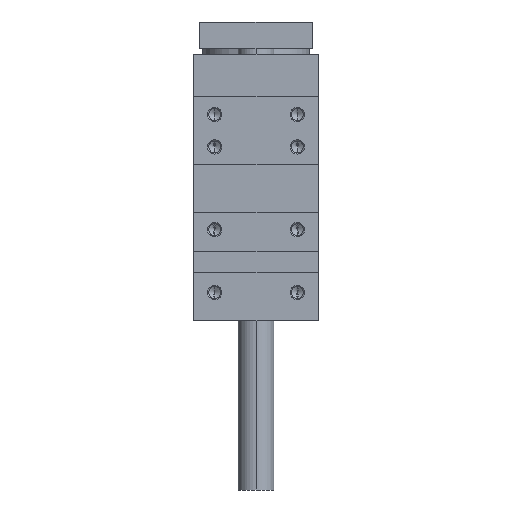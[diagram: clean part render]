
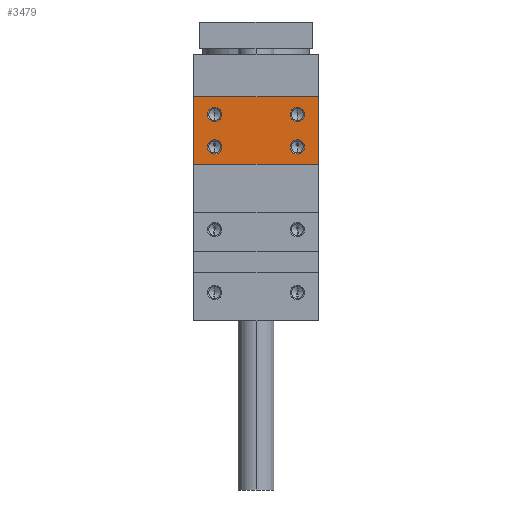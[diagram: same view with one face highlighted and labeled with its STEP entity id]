
A CAD part, left-side view. The second image highlights one B-rep face of the part: STEP entity #3479.
In plain terms, the highlighted planar face has unit normal (-1, 0, 0).
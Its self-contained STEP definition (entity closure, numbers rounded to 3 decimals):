
#53 = VERTEX_POINT ( 'NONE', #7625 ) ;
#315 = DIRECTION ( 'NONE',  ( 0., 0., -1. ) ) ;
#426 = EDGE_CURVE ( 'NONE', #6781, #7878, #5089, .T. ) ;
#442 = FACE_BOUND ( 'NONE', #6605, .T. ) ;
#595 = CARTESIAN_POINT ( 'NONE',  ( -68.5, -23.25, 18.8 ) ) ;
#725 = CIRCLE ( 'NONE', #5806, 4. ) ;
#773 = DIRECTION ( 'NONE',  ( 1., 0., 0. ) ) ;
#786 = CARTESIAN_POINT ( 'NONE',  ( -68.5, -23.25, 18.8 ) ) ;
#807 = ORIENTED_EDGE ( 'NONE', *, *, #2582, .T. ) ;
#882 = VERTEX_POINT ( 'NONE', #6215 ) ;
#1076 = CIRCLE ( 'NONE', #4927, 4. ) ;
#1111 = FACE_BOUND ( 'NONE', #7629, .T. ) ;
#1232 = EDGE_CURVE ( 'NONE', #7058, #6681, #1076, .T. ) ;
#1277 = ORIENTED_EDGE ( 'NONE', *, *, #5591, .T. ) ;
#1401 = CARTESIAN_POINT ( 'NONE',  ( -68.5, 23.25, 41. ) ) ;
#1419 = EDGE_CURVE ( 'NONE', #7375, #6781, #8122, .T. ) ;
#1497 = CARTESIAN_POINT ( 'NONE',  ( -68.5, 35., 9. ) ) ;
#1501 = DIRECTION ( 'NONE',  ( 0., -1., 0. ) ) ;
#1523 = DIRECTION ( 'NONE',  ( 1., 0., 0. ) ) ;
#1540 = ORIENTED_EDGE ( 'NONE', *, *, #1232, .T. ) ;
#1803 = ORIENTED_EDGE ( 'NONE', *, *, #1419, .T. ) ;
#1913 = ORIENTED_EDGE ( 'NONE', *, *, #10484, .T. ) ;
#2196 = CIRCLE ( 'NONE', #4649, 4. ) ;
#2381 = CARTESIAN_POINT ( 'NONE',  ( -68.5, -23.25, 41. ) ) ;
#2565 = AXIS2_PLACEMENT_3D ( 'NONE', #2746, #3786, #9667 ) ;
#2568 = ORIENTED_EDGE ( 'NONE', *, *, #6427, .T. ) ;
#2574 = ORIENTED_EDGE ( 'NONE', *, *, #8209, .T. ) ;
#2582 = EDGE_CURVE ( 'NONE', #6681, #7058, #5985, .T. ) ;
#2640 = DIRECTION ( 'NONE',  ( 0., 0., -1. ) ) ;
#2721 = CARTESIAN_POINT ( 'NONE',  ( -68.5, -35., -79. ) ) ;
#2746 = CARTESIAN_POINT ( 'NONE',  ( -68.5, 35., -79. ) ) ;
#2835 = CARTESIAN_POINT ( 'NONE',  ( -68.5, 23.25, 18.8 ) ) ;
#3052 = CARTESIAN_POINT ( 'NONE',  ( -68.5, 23.25, 22.8 ) ) ;
#3291 = EDGE_CURVE ( 'NONE', #4011, #7878, #5671, .T. ) ;
#3350 = ORIENTED_EDGE ( 'NONE', *, *, #3291, .F. ) ;
#3461 = CARTESIAN_POINT ( 'NONE',  ( -68.5, 23.25, 37. ) ) ;
#3479 = ADVANCED_FACE ( 'NONE', ( #8732, #3738, #442, #5280, #1111 ), #8677, .F. ) ;
#3501 = DIRECTION ( 'NONE',  ( 1., 0., 0. ) ) ;
#3738 = FACE_BOUND ( 'NONE', #3927, .T. ) ;
#3786 = DIRECTION ( 'NONE',  ( 1., 0., 0. ) ) ;
#3864 = VECTOR ( 'NONE', #7298, 1000. ) ;
#3916 = VERTEX_POINT ( 'NONE', #4498 ) ;
#3927 = EDGE_LOOP ( 'NONE', ( #8090, #2574 ) ) ;
#3934 = DIRECTION ( 'NONE',  ( 0., 0., -1. ) ) ;
#4011 = VERTEX_POINT ( 'NONE', #8222 ) ;
#4115 = DIRECTION ( 'NONE',  ( 0., 0., -1. ) ) ;
#4303 = CARTESIAN_POINT ( 'NONE',  ( -68.5, 23.25, 18.8 ) ) ;
#4468 = CIRCLE ( 'NONE', #10410, 4. ) ;
#4498 = CARTESIAN_POINT ( 'NONE',  ( -68.5, -23.25, 22.8 ) ) ;
#4649 = AXIS2_PLACEMENT_3D ( 'NONE', #9280, #773, #5111 ) ;
#4927 = AXIS2_PLACEMENT_3D ( 'NONE', #3461, #6816, #2640 ) ;
#4943 = AXIS2_PLACEMENT_3D ( 'NONE', #6338, #7726, #5457 ) ;
#4951 = CARTESIAN_POINT ( 'NONE',  ( -68.5, 70., 9. ) ) ;
#5089 = LINE ( 'NONE', #2721, #10692 ) ;
#5093 = CIRCLE ( 'NONE', #6153, 4. ) ;
#5111 = DIRECTION ( 'NONE',  ( 0., 0., -1. ) ) ;
#5280 = FACE_BOUND ( 'NONE', #5333, .T. ) ;
#5333 = EDGE_LOOP ( 'NONE', ( #1540, #807 ) ) ;
#5414 = LINE ( 'NONE', #8769, #8024 ) ;
#5457 = DIRECTION ( 'NONE',  ( 0., 0., -1. ) ) ;
#5537 = VERTEX_POINT ( 'NONE', #2381 ) ;
#5591 = EDGE_CURVE ( 'NONE', #3916, #882, #4468, .T. ) ;
#5671 = LINE ( 'NONE', #9020, #10628 ) ;
#5729 = DIRECTION ( 'NONE',  ( 0., 0., -1. ) ) ;
#5741 = CARTESIAN_POINT ( 'NONE',  ( -68.5, 23.25, 33. ) ) ;
#5806 = AXIS2_PLACEMENT_3D ( 'NONE', #4303, #1523, #9402 ) ;
#5818 = CARTESIAN_POINT ( 'NONE',  ( -68.5, -35., 47. ) ) ;
#5850 = CIRCLE ( 'NONE', #10228, 4. ) ;
#5985 = CIRCLE ( 'NONE', #4943, 4. ) ;
#6153 = AXIS2_PLACEMENT_3D ( 'NONE', #2835, #6186, #315 ) ;
#6186 = DIRECTION ( 'NONE',  ( 1., 0., 0. ) ) ;
#6215 = CARTESIAN_POINT ( 'NONE',  ( -68.5, -23.25, 14.8 ) ) ;
#6338 = CARTESIAN_POINT ( 'NONE',  ( -68.5, 23.25, 37. ) ) ;
#6427 = EDGE_CURVE ( 'NONE', #5537, #53, #2196, .T. ) ;
#6605 = EDGE_LOOP ( 'NONE', ( #1277, #1913 ) ) ;
#6681 = VERTEX_POINT ( 'NONE', #5741 ) ;
#6781 = VERTEX_POINT ( 'NONE', #9204 ) ;
#6816 = DIRECTION ( 'NONE',  ( 1., 0., 0. ) ) ;
#7058 = VERTEX_POINT ( 'NONE', #1401 ) ;
#7298 = DIRECTION ( 'NONE',  ( 0., -1., 0. ) ) ;
#7375 = VERTEX_POINT ( 'NONE', #1497 ) ;
#7499 = DIRECTION ( 'NONE',  ( 0., 0., 1. ) ) ;
#7625 = CARTESIAN_POINT ( 'NONE',  ( -68.5, -23.25, 33. ) ) ;
#7629 = EDGE_LOOP ( 'NONE', ( #2568, #8804 ) ) ;
#7726 = DIRECTION ( 'NONE',  ( 1., 0., 0. ) ) ;
#7842 = EDGE_LOOP ( 'NONE', ( #10364, #3350, #10192, #1803 ) ) ;
#7851 = CIRCLE ( 'NONE', #8908, 4. ) ;
#7878 = VERTEX_POINT ( 'NONE', #5818 ) ;
#7998 = EDGE_CURVE ( 'NONE', #8054, #8129, #5093, .T. ) ;
#8024 = VECTOR ( 'NONE', #10200, 1000. ) ;
#8054 = VERTEX_POINT ( 'NONE', #3052 ) ;
#8090 = ORIENTED_EDGE ( 'NONE', *, *, #7998, .T. ) ;
#8122 = LINE ( 'NONE', #4951, #3864 ) ;
#8129 = VERTEX_POINT ( 'NONE', #8820 ) ;
#8209 = EDGE_CURVE ( 'NONE', #8129, #8054, #725, .T. ) ;
#8222 = CARTESIAN_POINT ( 'NONE',  ( -68.5, 35., 47. ) ) ;
#8225 = DIRECTION ( 'NONE',  ( 1., 0., 0. ) ) ;
#8677 = PLANE ( 'NONE',  #2565 ) ;
#8732 = FACE_OUTER_BOUND ( 'NONE', #7842, .T. ) ;
#8769 = CARTESIAN_POINT ( 'NONE',  ( -68.5, 35., -79. ) ) ;
#8804 = ORIENTED_EDGE ( 'NONE', *, *, #8978, .T. ) ;
#8820 = CARTESIAN_POINT ( 'NONE',  ( -68.5, 23.25, 14.8 ) ) ;
#8908 = AXIS2_PLACEMENT_3D ( 'NONE', #9219, #3501, #4115 ) ;
#8978 = EDGE_CURVE ( 'NONE', #53, #5537, #7851, .T. ) ;
#9020 = CARTESIAN_POINT ( 'NONE',  ( -68.5, 70., 47. ) ) ;
#9026 = DIRECTION ( 'NONE',  ( 1., 0., 0. ) ) ;
#9179 = EDGE_CURVE ( 'NONE', #7375, #4011, #5414, .T. ) ;
#9204 = CARTESIAN_POINT ( 'NONE',  ( -68.5, -35., 9. ) ) ;
#9219 = CARTESIAN_POINT ( 'NONE',  ( -68.5, -23.25, 37. ) ) ;
#9280 = CARTESIAN_POINT ( 'NONE',  ( -68.5, -23.25, 37. ) ) ;
#9402 = DIRECTION ( 'NONE',  ( 0., 0., -1. ) ) ;
#9667 = DIRECTION ( 'NONE',  ( 0., 1., 0. ) ) ;
#10192 = ORIENTED_EDGE ( 'NONE', *, *, #9179, .F. ) ;
#10200 = DIRECTION ( 'NONE',  ( 0., 0., 1. ) ) ;
#10228 = AXIS2_PLACEMENT_3D ( 'NONE', #595, #8225, #3934 ) ;
#10364 = ORIENTED_EDGE ( 'NONE', *, *, #426, .T. ) ;
#10410 = AXIS2_PLACEMENT_3D ( 'NONE', #786, #9026, #5729 ) ;
#10484 = EDGE_CURVE ( 'NONE', #882, #3916, #5850, .T. ) ;
#10628 = VECTOR ( 'NONE', #1501, 1000. ) ;
#10692 = VECTOR ( 'NONE', #7499, 1000. ) ;
